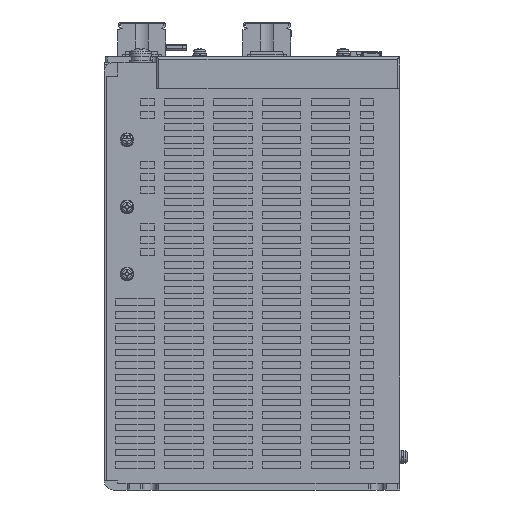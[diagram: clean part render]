
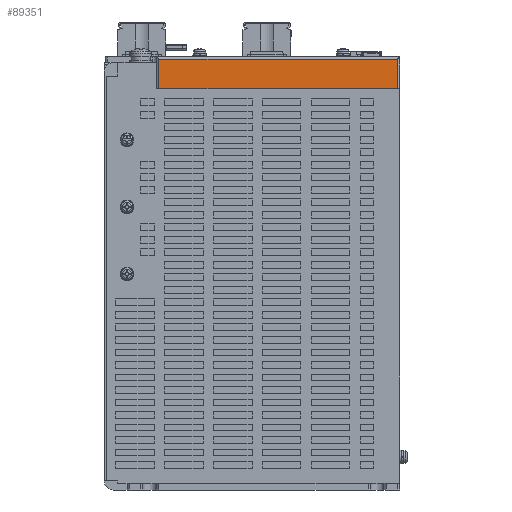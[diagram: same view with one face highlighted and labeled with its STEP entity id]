
A CAD part, front view. The second image highlights one B-rep face of the part: STEP entity #89351.
In plain terms, the highlighted planar face has unit normal (0, -1, 0).
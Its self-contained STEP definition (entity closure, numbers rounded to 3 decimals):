
#19792 = CARTESIAN_POINT ( 'NONE',  ( 54.621, -113.446, 459.5 ) ) ;
#32664 = VERTEX_POINT ( 'NONE', #56897 ) ;
#44937 = LINE ( 'NONE', #19792, #108328 ) ;
#45696 = EDGE_CURVE ( 'NONE', #118870, #32664, #44937, .T. ) ;
#56185 = AXIS2_PLACEMENT_3D ( 'NONE', #328680, #190730, #321627 ) ;
#56897 = CARTESIAN_POINT ( 'NONE',  ( -51.379, -113.446, 459.5 ) ) ;
#67798 = VECTOR ( 'NONE', #272889, 1000. ) ;
#89351 = ADVANCED_FACE ( 'NONE', ( #131705 ), #246288, .F. ) ;
#108328 = VECTOR ( 'NONE', #263473, 1000. ) ;
#111592 = LINE ( 'NONE', #158313, #67798 ) ;
#118870 = VERTEX_POINT ( 'NONE', #330942 ) ;
#123014 = DIRECTION ( 'NONE',  ( 0., 0., 1. ) ) ;
#128635 = EDGE_LOOP ( 'NONE', ( #263566, #149245, #163584, #292308 ) ) ;
#131705 = FACE_OUTER_BOUND ( 'NONE', #128635, .T. ) ;
#147414 = CARTESIAN_POINT ( 'NONE',  ( -51.379, -113.446, 446.5 ) ) ;
#149245 = ORIENTED_EDGE ( 'NONE', *, *, #151501, .T. ) ;
#151501 = EDGE_CURVE ( 'NONE', #156287, #118870, #223924, .T. ) ;
#156287 = VERTEX_POINT ( 'NONE', #212543 ) ;
#158313 = CARTESIAN_POINT ( 'NONE',  ( -51.379, -113.446, 460.5 ) ) ;
#163584 = ORIENTED_EDGE ( 'NONE', *, *, #45696, .T. ) ;
#164755 = CARTESIAN_POINT ( 'NONE',  ( 54.621, -113.446, 446.5 ) ) ;
#171911 = VECTOR ( 'NONE', #243666, 1000. ) ;
#190730 = DIRECTION ( 'NONE',  ( 0., 1., 0. ) ) ;
#202464 = EDGE_CURVE ( 'NONE', #156287, #218853, #300927, .T. ) ;
#212543 = CARTESIAN_POINT ( 'NONE',  ( 53.621, -113.446, 446.5 ) ) ;
#218853 = VERTEX_POINT ( 'NONE', #147414 ) ;
#223924 = LINE ( 'NONE', #304547, #343448 ) ;
#243666 = DIRECTION ( 'NONE',  ( -1., 0., 0. ) ) ;
#246288 = PLANE ( 'NONE',  #56185 ) ;
#258531 = EDGE_CURVE ( 'NONE', #32664, #218853, #111592, .T. ) ;
#263473 = DIRECTION ( 'NONE',  ( -1., 0., 0. ) ) ;
#263566 = ORIENTED_EDGE ( 'NONE', *, *, #202464, .F. ) ;
#272889 = DIRECTION ( 'NONE',  ( 0., 0., -1. ) ) ;
#292308 = ORIENTED_EDGE ( 'NONE', *, *, #258531, .T. ) ;
#300927 = LINE ( 'NONE', #164755, #171911 ) ;
#304547 = CARTESIAN_POINT ( 'NONE',  ( 53.621, -113.446, 460.5 ) ) ;
#321627 = DIRECTION ( 'NONE',  ( -1., 0., 0. ) ) ;
#328680 = CARTESIAN_POINT ( 'NONE',  ( 54.621, -113.446, 460.5 ) ) ;
#330942 = CARTESIAN_POINT ( 'NONE',  ( 53.621, -113.446, 459.5 ) ) ;
#343448 = VECTOR ( 'NONE', #123014, 1000. ) ;
